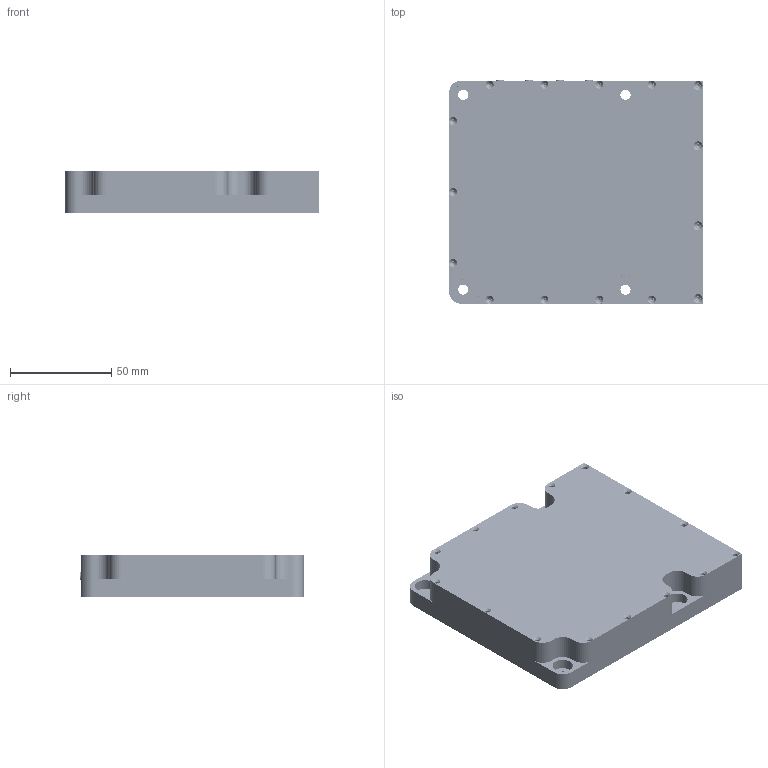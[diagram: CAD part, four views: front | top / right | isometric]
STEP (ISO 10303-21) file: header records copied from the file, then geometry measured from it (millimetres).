
FILE_DESCRIPTION (( 'STEP AP214' ), '1' );
FILE_NAME ('BOX-STP-ASMBLC.STEP', '2025-07-24T15:44:38', ( '' ), ( '' ), 'SwSTEP 2.0', 'SolidWorks 2024', '' );
FILE_SCHEMA (( 'AUTOMOTIVE_DESIGN' ));
Length unit declared in the file: millimetre
Products named in the file (28): 25-bend; 36-51pins-51ZKW; 15-bend; obc-pro-2-box.step; 15ZKN-base; 9ZKW-5pins; 51ZK-base; obc-pro-2-panel.step; M2 Hegxaon screw 12.6; BOX-STP-ASMBLC; 9ZKW-4pins; 1-18pins-51ZKW; 15ZKW-15pins; M2 Hegxaon screw 21.6 ; 9-TJ-inter; 19-35pins-51ZKW; 51ZKW-J; 15ZKW; 25ZK(W,N)-base; 9TJW-J; 15ZKW-25pins; 9TJW-base; 9ZKW-base; 9-bend; 25ZKW; obc-pro-2-door.step; 51-bend; 9ZKW-J
Assembly tree (43 placements, depth 3):
  BOX-STP-ASMBLC
    obc-pro-2-box.step
    obc-pro-2-panel.step
    obc-pro-2-door.step
    25ZKW
      25ZK(W,N)-base
      15ZKW-25pins
      25-bend  x2
      M2 Hegxaon screw 12.6  x2
    51ZKW-J
      51ZK-base
      1-18pins-51ZKW
      19-35pins-51ZKW
      36-51pins-51ZKW
      51-bend  x2
      M2 Hegxaon screw 21.6   x2
    15ZKW
      15ZKN-base
      15ZKW-15pins
      M2 Hegxaon screw 21.6   x2
      15-bend  x2
    9ZKW-J
      9ZKW-base
      9ZKW-5pins
      9ZKW-4pins
      9-bend  x2
      M2 Hegxaon screw 21.6   x2
    9TJW-J
      9TJW-base
      9ZKW-4pins
      9ZKW-5pins
      9-TJ-inter
      9-bend  x2
      M2 Hegxaon screw 12.6  x2
Bounding box: 125.2 x 110.2 x 21 mm (x, y, z)
Volume: 139491.8 mm3; surface area: 90712.1 mm2
Topology: 138 solids, 138 shells, 2638 faces, 6444 edges, 4174 vertices
Faces by surface type: cylinder 1309, plane 1026, torus 119, cone 118, bspline 66
Full cylindrical faces by diameter (mm): 0.5 x218, 0.7 x84, 0.825 x25, 0.91 x9, 1.6 x21, 2 x371, 2.05 x8, 2.4 x20, 2.5 x20, 3 x12, 3.2 x10, 4 x10, 5 x4, 10 x4
Entity records: 63872 total; most frequent: CARTESIAN_POINT 18293, DIRECTION 9375, ORIENTED_EDGE 7920, EDGE_CURVE 3960, AXIS2_PLACEMENT_3D 3633, EDGE_LOOP 2905, VERTEX_POINT 2901, FACE_OUTER_BOUND 2425
